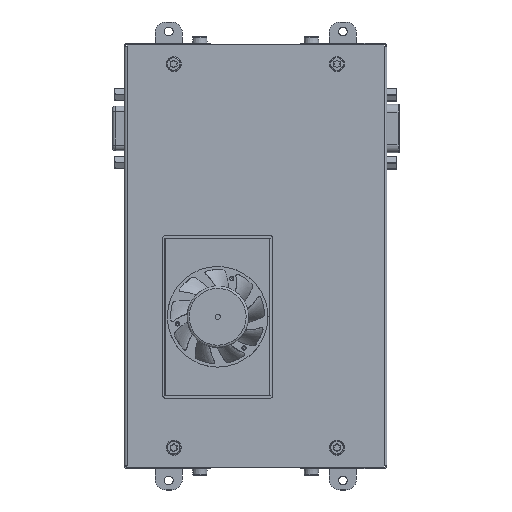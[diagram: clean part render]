
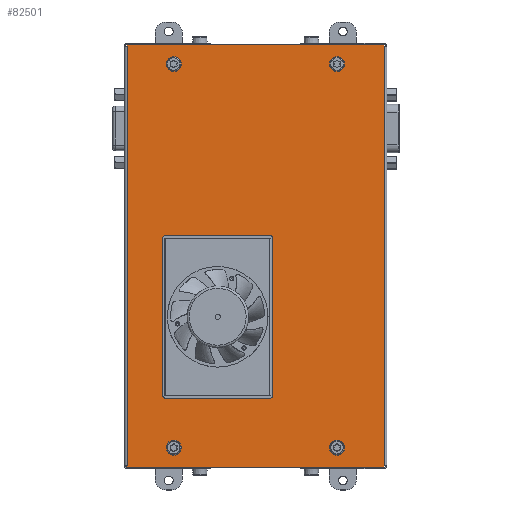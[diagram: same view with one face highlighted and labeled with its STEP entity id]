
A CAD part, top view. The second image highlights one B-rep face of the part: STEP entity #82501.
In plain terms, the highlighted planar face has unit normal (0, 0, 1).
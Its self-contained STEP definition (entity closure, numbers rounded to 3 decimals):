
#2790=FACE_BOUND('',#7886,.T.);
#2791=FACE_BOUND('',#7887,.T.);
#2792=FACE_BOUND('',#7888,.T.);
#2793=FACE_BOUND('',#7889,.T.);
#2794=FACE_BOUND('',#7890,.T.);
#3570=FACE_OUTER_BOUND('',#7885,.T.);
#7885=EDGE_LOOP('',(#57716,#57717,#57718,#57719,#57720,#57721,#57722,#57723));
#7886=EDGE_LOOP('',(#57724,#57725,#57726,#57727,#57728,#57729,#57730,#57731));
#7887=EDGE_LOOP('',(#57732));
#7888=EDGE_LOOP('',(#57733));
#7889=EDGE_LOOP('',(#57734));
#7890=EDGE_LOOP('',(#57735));
#12421=CIRCLE('',#87801,1.);
#12423=CIRCLE('',#87805,1.);
#12425=CIRCLE('',#87809,1.);
#12427=CIRCLE('',#87813,1.);
#12491=CIRCLE('',#87928,1.6);
#12493=CIRCLE('',#87931,1.6);
#12495=CIRCLE('',#87934,1.6);
#12497=CIRCLE('',#87937,1.6);
#16471=LINE('',#122376,#25551);
#16476=LINE('',#122390,#25556);
#16480=LINE('',#122402,#25560);
#16484=LINE('',#122414,#25564);
#16677=LINE('',#122962,#25757);
#16683=LINE('',#122973,#25763);
#16690=LINE('',#122989,#25770);
#16693=LINE('',#122994,#25773);
#16696=LINE('',#122999,#25776);
#16697=LINE('',#123002,#25777);
#16699=LINE('',#123006,#25779);
#16706=LINE('',#123033,#25786);
#25551=VECTOR('',#97342,10.);
#25556=VECTOR('',#97355,10.);
#25560=VECTOR('',#97367,10.);
#25564=VECTOR('',#97379,10.);
#25757=VECTOR('',#97926,10.);
#25763=VECTOR('',#97934,10.);
#25770=VECTOR('',#97945,10.);
#25773=VECTOR('',#97950,10.);
#25776=VECTOR('',#97955,10.);
#25777=VECTOR('',#97958,10.);
#25779=VECTOR('',#97964,10.);
#25786=VECTOR('',#98011,10.);
#35077=VERTEX_POINT('',#122374);
#35078=VERTEX_POINT('',#122375);
#35081=VERTEX_POINT('',#122383);
#35083=VERTEX_POINT('',#122389);
#35085=VERTEX_POINT('',#122395);
#35087=VERTEX_POINT('',#122401);
#35089=VERTEX_POINT('',#122407);
#35091=VERTEX_POINT('',#122413);
#35224=VERTEX_POINT('',#122795);
#35226=VERTEX_POINT('',#122801);
#35228=VERTEX_POINT('',#122807);
#35230=VERTEX_POINT('',#122813);
#35268=VERTEX_POINT('',#122960);
#35269=VERTEX_POINT('',#122961);
#35273=VERTEX_POINT('',#122971);
#35279=VERTEX_POINT('',#122987);
#35280=VERTEX_POINT('',#122988);
#35281=VERTEX_POINT('',#122993);
#35282=VERTEX_POINT('',#122997);
#35283=VERTEX_POINT('',#123001);
#44085=EDGE_CURVE('',#35077,#35078,#16471,.T.);
#44089=EDGE_CURVE('',#35081,#35077,#12421,.T.);
#44092=EDGE_CURVE('',#35083,#35081,#16476,.T.);
#44095=EDGE_CURVE('',#35085,#35083,#12423,.T.);
#44098=EDGE_CURVE('',#35087,#35085,#16480,.T.);
#44101=EDGE_CURVE('',#35089,#35087,#12425,.T.);
#44104=EDGE_CURVE('',#35091,#35089,#16484,.T.);
#44107=EDGE_CURVE('',#35078,#35091,#12427,.T.);
#44301=EDGE_CURVE('',#35224,#35224,#12491,.T.);
#44304=EDGE_CURVE('',#35226,#35226,#12493,.T.);
#44307=EDGE_CURVE('',#35228,#35228,#12495,.T.);
#44310=EDGE_CURVE('',#35230,#35230,#12497,.T.);
#44385=EDGE_CURVE('',#35268,#35269,#16677,.T.);
#44391=EDGE_CURVE('',#35269,#35273,#16683,.T.);
#44398=EDGE_CURVE('',#35279,#35280,#16690,.T.);
#44401=EDGE_CURVE('',#35281,#35279,#16693,.T.);
#44404=EDGE_CURVE('',#35280,#35282,#16696,.T.);
#44405=EDGE_CURVE('',#35283,#35268,#16697,.T.);
#44407=EDGE_CURVE('',#35273,#35281,#16699,.T.);
#44418=EDGE_CURVE('',#35282,#35283,#16706,.T.);
#57716=ORIENTED_EDGE('',*,*,#44385,.T.);
#57717=ORIENTED_EDGE('',*,*,#44391,.T.);
#57718=ORIENTED_EDGE('',*,*,#44407,.T.);
#57719=ORIENTED_EDGE('',*,*,#44401,.T.);
#57720=ORIENTED_EDGE('',*,*,#44398,.T.);
#57721=ORIENTED_EDGE('',*,*,#44404,.T.);
#57722=ORIENTED_EDGE('',*,*,#44418,.T.);
#57723=ORIENTED_EDGE('',*,*,#44405,.T.);
#57724=ORIENTED_EDGE('',*,*,#44085,.T.);
#57725=ORIENTED_EDGE('',*,*,#44107,.T.);
#57726=ORIENTED_EDGE('',*,*,#44104,.T.);
#57727=ORIENTED_EDGE('',*,*,#44101,.T.);
#57728=ORIENTED_EDGE('',*,*,#44098,.T.);
#57729=ORIENTED_EDGE('',*,*,#44095,.T.);
#57730=ORIENTED_EDGE('',*,*,#44092,.T.);
#57731=ORIENTED_EDGE('',*,*,#44089,.T.);
#57732=ORIENTED_EDGE('',*,*,#44301,.T.);
#57733=ORIENTED_EDGE('',*,*,#44304,.T.);
#57734=ORIENTED_EDGE('',*,*,#44307,.T.);
#57735=ORIENTED_EDGE('',*,*,#44310,.T.);
#79767=PLANE('',#88024);
#82501=ADVANCED_FACE('',(#3570,#2790,#2791,#2792,#2793,#2794),#79767,.T.);
#87801=AXIS2_PLACEMENT_3D('',#122384,#97348,#97349);
#87805=AXIS2_PLACEMENT_3D('',#122396,#97360,#97361);
#87809=AXIS2_PLACEMENT_3D('',#122408,#97372,#97373);
#87813=AXIS2_PLACEMENT_3D('',#122419,#97384,#97385);
#87928=AXIS2_PLACEMENT_3D('',#122796,#97744,#97745);
#87931=AXIS2_PLACEMENT_3D('',#122802,#97751,#97752);
#87934=AXIS2_PLACEMENT_3D('',#122808,#97758,#97759);
#87937=AXIS2_PLACEMENT_3D('',#122814,#97765,#97766);
#88024=AXIS2_PLACEMENT_3D('',#123041,#98026,#98027);
#97342=DIRECTION('',(0.,-1.,0.));
#97348=DIRECTION('center_axis',(0.,0.,
-1.));
#97349=DIRECTION('ref_axis',(1.,0.,0.));
#97355=DIRECTION('',(1.,0.,0.));
#97360=DIRECTION('center_axis',(0.,0.,
-1.));
#97361=DIRECTION('ref_axis',(0.,1.,0.));
#97367=DIRECTION('',(0.,1.,0.));
#97372=DIRECTION('center_axis',(0.,0.,
-1.));
#97373=DIRECTION('ref_axis',(-1.,0.,0.));
#97379=DIRECTION('',(-1.,0.,0.));
#97384=DIRECTION('center_axis',(0.,0.,
-1.));
#97385=DIRECTION('ref_axis',(0.,-1.,0.));
#97744=DIRECTION('center_axis',(0.,0.,
-1.));
#97745=DIRECTION('ref_axis',(0.,1.,0.));
#97751=DIRECTION('center_axis',(0.,0.,
-1.));
#97752=DIRECTION('ref_axis',(0.,1.,0.));
#97758=DIRECTION('center_axis',(0.,0.,
-1.));
#97759=DIRECTION('ref_axis',(0.,1.,0.));
#97765=DIRECTION('center_axis',(0.,0.,
-1.));
#97766=DIRECTION('ref_axis',(0.,1.,0.));
#97926=DIRECTION('',(1.,0.,0.));
#97934=DIRECTION('',(0.,1.,0.));
#97945=DIRECTION('',(-1.,0.,0.));
#97950=DIRECTION('',(0.,1.,0.));
#97955=DIRECTION('',(0.,-1.,0.));
#97958=DIRECTION('',(0.,-1.,0.));
#97964=DIRECTION('',(0.,1.,0.));
#98011=DIRECTION('',(0.,-1.,0.));
#98026=DIRECTION('center_axis',(0.,0.,
1.));
#98027=DIRECTION('ref_axis',(0.,-1.,0.));
#122374=CARTESIAN_POINT('',(6.19,6.5,28.));
#122375=CARTESIAN_POINT('',(6.19,-51.3,28.));
#122376=CARTESIAN_POINT('',(6.19,3.25,28.));
#122383=CARTESIAN_POINT('',(5.19,7.5,28.));
#122384=CARTESIAN_POINT('Origin',(5.19,6.5,28.));
#122389=CARTESIAN_POINT('',(-33.21,7.5,28.));
#122390=CARTESIAN_POINT('',(-28.803,7.5,28.));
#122395=CARTESIAN_POINT('',(-34.21,6.5,28.));
#122396=CARTESIAN_POINT('Origin',(-33.21,6.5,28.));
#122401=CARTESIAN_POINT('',(-34.21,-51.3,28.));
#122402=CARTESIAN_POINT('',(-34.21,-25.65,28.));
#122407=CARTESIAN_POINT('',(-33.21,-52.3,28.));
#122408=CARTESIAN_POINT('Origin',(-33.21,-51.3,28.));
#122413=CARTESIAN_POINT('',(5.19,-52.3,28.));
#122414=CARTESIAN_POINT('',(-9.603,-52.3,28.));
#122419=CARTESIAN_POINT('Origin',(5.19,-51.3,28.));
#122795=CARTESIAN_POINT('',(29.84,-72.1,28.));
#122796=CARTESIAN_POINT('Origin',(29.84,-70.5,28.));
#122801=CARTESIAN_POINT('',(29.84,68.9,28.));
#122802=CARTESIAN_POINT('Origin',(29.84,70.5,28.));
#122807=CARTESIAN_POINT('',(-30.16,-72.1,28.));
#122808=CARTESIAN_POINT('Origin',(-30.16,-70.5,28.));
#122813=CARTESIAN_POINT('',(-30.16,68.9,28.));
#122814=CARTESIAN_POINT('Origin',(-30.16,70.5,28.));
#122960=CARTESIAN_POINT('',(-47.33,-77.6,28.));
#122961=CARTESIAN_POINT('',(47.17,-77.6,28.));
#122962=CARTESIAN_POINT('',(11.387,-77.6,28.));
#122971=CARTESIAN_POINT('',(47.17,-77.,28.));
#122973=CARTESIAN_POINT('',(47.17,-76.,28.));
#122987=CARTESIAN_POINT('',(47.17,77.6,28.));
#122988=CARTESIAN_POINT('',(-47.33,77.6,28.));
#122989=CARTESIAN_POINT('',(-35.863,77.6,28.));
#122993=CARTESIAN_POINT('',(47.17,77.,28.));
#122994=CARTESIAN_POINT('',(47.17,75.5,28.));
#122997=CARTESIAN_POINT('',(-47.33,77.,28.));
#122999=CARTESIAN_POINT('',(-47.33,76.,28.));
#123001=CARTESIAN_POINT('',(-47.33,-77.,28.));
#123002=CARTESIAN_POINT('',(-47.33,-75.5,28.));
#123006=CARTESIAN_POINT('',(47.17,0.,28.));
#123033=CARTESIAN_POINT('',(-47.33,0.,28.));
#123041=CARTESIAN_POINT('Origin',(-24.395,0.,
28.));
